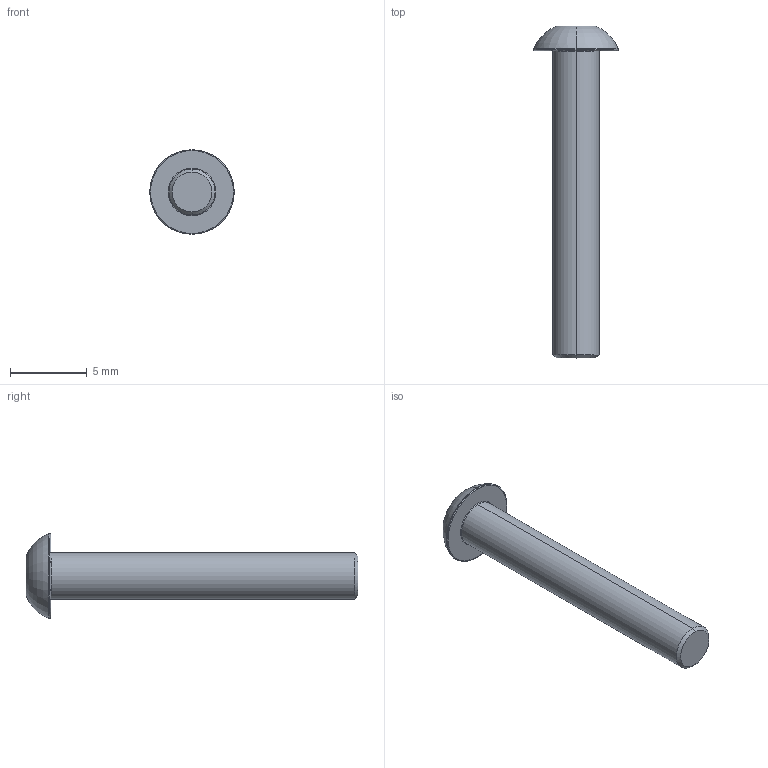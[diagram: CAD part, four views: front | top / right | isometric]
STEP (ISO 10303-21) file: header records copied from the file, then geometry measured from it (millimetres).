
FILE_DESCRIPTION (( 'STEP AP203' ), '1' );
FILE_NAME ('LGDD-TD-M3x20.STEP', '2026-08-13T14:32:44', ( '' ), ( '' ), 'SwSTEP 2.0', 'SolidWorks 2020', '' );
FILE_SCHEMA (( 'CONFIG_CONTROL_DESIGN' ));
Length unit declared in the file: millimetre
Products named in the file (1): LGDD-TD-M3x20
Bounding box: 5.5 x 21.6 x 5.5 mm (x, y, z)
Volume: 162.8 mm3; surface area: 255.6 mm2
Topology: 1 solids, 1 shells, 31 faces, 59 edges, 32 vertices
Faces by surface type: plane 10, cone 9, torus 8, cylinder 4
Entity records: 876 total; most frequent: CARTESIAN_POINT 166, DIRECTION 149, ORIENTED_EDGE 118, AXIS2_PLACEMENT_3D 65, EDGE_CURVE 59, CIRCLE 33, EDGE_LOOP 33, VERTEX_POINT 32
